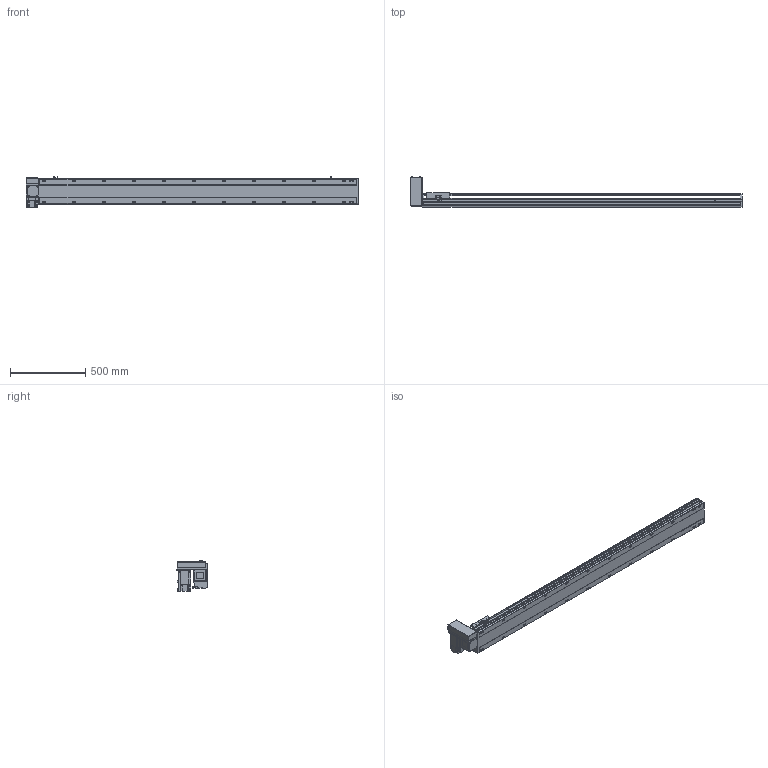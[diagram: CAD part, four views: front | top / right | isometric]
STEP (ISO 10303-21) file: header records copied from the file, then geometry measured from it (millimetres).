
FILE_DESCRIPTION( ( 'STEP AP214' ), '1' );
FILE_NAME( 'x:/temp/worker_5/temp/exporttempdir_3988_136_EllpH/format_0/PBS170-P40-S1850-RU-T75-C1-N(0).stp', '2022-06-08T05:59:46', ( 'License CC BY-ND 4.0' ), ( 'CADENAS' ), ' ', 'PARTsolutions', ' ' );
FILE_SCHEMA( ( 'AUTOMOTIVE_DESIGN { 1 0 10303 214 1 1 1 1 }' ) );
Length unit declared in the file: millimetre
Products named in the file (7): PBS170-P40-S1850-RU-T75-C1-N(0); _PBS170-S1850()_body; _PBS170T-RU_motors; _T75-p1; _PBS170_sliser; _PBS170_plant; _PBS170_sensor
Assembly tree (8 placements, depth 2):
  PBS170-P40-S1850-RU-T75-C1-N(0)
    _PBS170-S1850()_body
    _PBS170T-RU_motors
    _T75-p1
    _PBS170_sliser
    _PBS170_plant
    _PBS170_sensor  x3
Bounding box: 2213 x 206 x 205.3 mm (x, y, z)
Volume: 17044187.3 mm3; surface area: 2171960.1 mm2
Topology: 8 solids, 8 shells, 1146 faces, 3035 edges, 1978 vertices
Faces by surface type: plane 711, cylinder 371, cone 54, sphere 8, torus 2
Full cylindrical faces by diameter (mm): 3.242 x4, 4 x2, 4.4 x4, 4.5 x6, 4.917 x4, 6 x9, 6.647 x32, 7 x2, 7.5 x4, 8 x8, 8.5 x24, 10 x4, 10.5 x24, 11 x2, 30 x2, 40 x1, 70 x1
Entity records: 42308 total; most frequent: CARTESIAN_POINT 6893, DIRECTION 5580, ORIENTED_EDGE 5268, EDGE_CURVE 2634, AXIS2_PLACEMENT_3D 1957, VERTEX_POINT 1826, LINE 1666, VECTOR 1666
